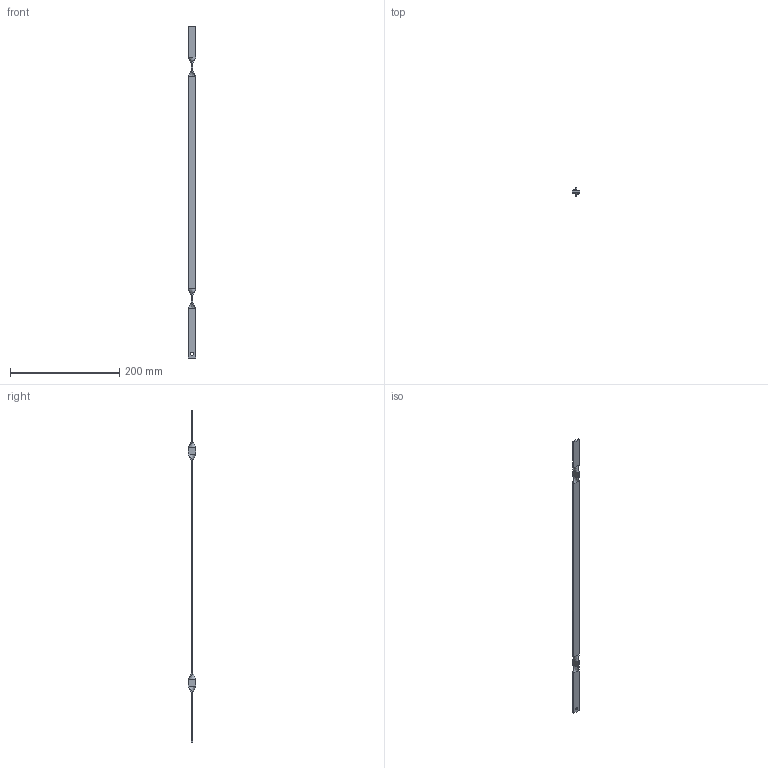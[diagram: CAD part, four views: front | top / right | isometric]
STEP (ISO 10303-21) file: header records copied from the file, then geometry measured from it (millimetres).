
FILE_DESCRIPTION (( 'STEP AP214' ), '1' );
FILE_NAME ('P290-601.STEP', '2012-02-02T15:51:47', ( 'Techniczny' ), ( 'RST Roztocze' ), 'SwSTEP 2.0', 'SolidWorks 2010', '' );
FILE_SCHEMA (( 'AUTOMOTIVE_DESIGN' ));
Length unit declared in the file: millimetre
Products named in the file (1): P290-601
Bounding box: 14 x 14 x 608.5 mm (x, y, z)
Volume: 24813.7 mm3; surface area: 20579.9 mm2
Topology: 1 solids, 1 shells, 40 faces, 82 edges, 44 vertices
Faces by surface type: plane 22, bspline 16, cylinder 2
Entity records: 1172 total; most frequent: CARTESIAN_POINT 363, ORIENTED_EDGE 164, DIRECTION 132, EDGE_CURVE 82, VECTOR 74, LINE 74, VERTEX_POINT 44, EDGE_LOOP 42
